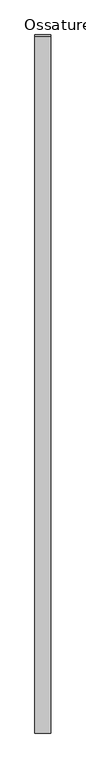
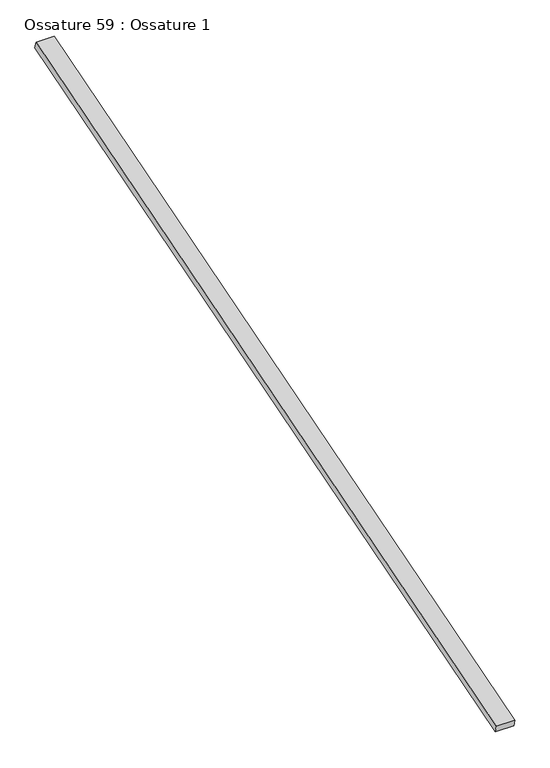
"""IFC4 building model written with IfcOpenShell, lengths in millimetres: beam geometry, Ossature 59 : Ossature 1."""

from ifc_helpers import new_model, si_unit, frame, origin, place, context, project, spatial, polyline, outline, extrude, source, transform, mapped, element, save


def ossature_59_ossature_1_3cbd7b5f(model_context):
    return source(origin(), model_context, "Body", "SweptSolid", [
        extrude(outline(polyline([(0.0, 0.0), (0.0, -4543.0299679), (-100.0, -4543.0299679), (-100.0, 0.0), (0.0, 0.0)])), frame((14345.8466393, -833.3913565, 8153.6336115), z_axis=(0.0, -0.28734788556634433, 0.9578262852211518), x_axis=(-1.0, 0.0, 0.0)), (0.0, 0.0, 1.0), 40.0),
    ])


if __name__ == "__main__":
    model = new_model("IFC4")
    model_context = context("Model", 3, world=origin())
    ifc_project = project(units=[si_unit("LENGTHUNIT", "METRE", prefix="MILLI")], contexts=[model_context])
    site = spatial("IfcSite", under=ifc_project)
    building = spatial("IfcBuilding", under=site)
    placement = place(None, origin())
    ossature_59_ossature_1_shape = ossature_59_ossature_1_3cbd7b5f(model_context)
    element("IfcBeam", 1, ObjectType="Ossature 59 : Ossature 1", at=placement, inside=building, context=model_context, shape_type="MappedRepresentation", body=[
        mapped(ossature_59_ossature_1_shape, transform((0.0, 0.0, 0.0), x_axis=(1.0, 0.0, 0.0), y_axis=(0.0, 1.0, 0.0), z_axis=(0.0, 0.0, 1.0))),
    ])
    save(model, "model.ifc")
